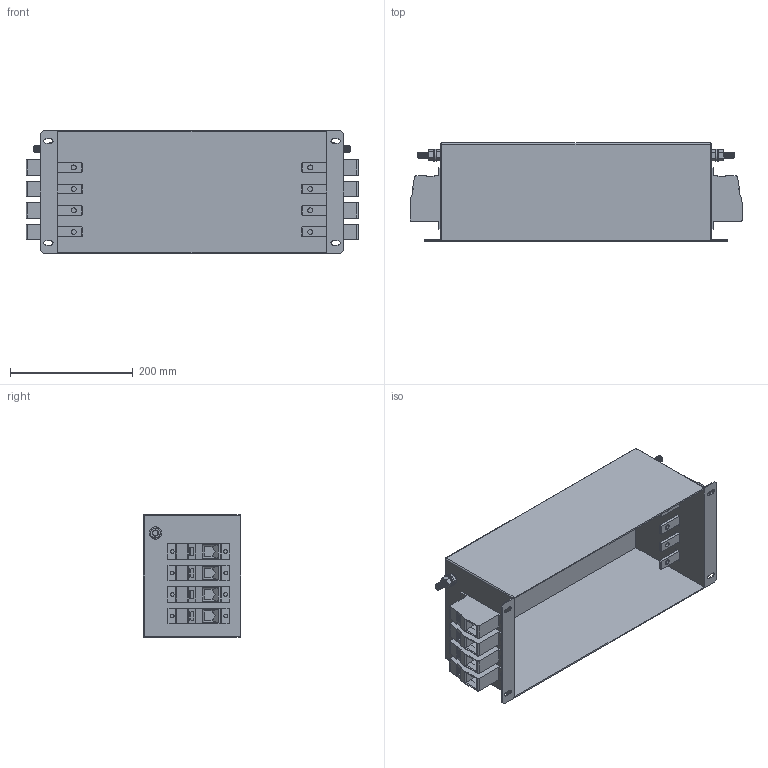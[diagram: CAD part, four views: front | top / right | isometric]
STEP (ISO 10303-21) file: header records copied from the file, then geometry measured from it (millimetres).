
FILE_DESCRIPTION (( 'STEP AP203' ), '1' );
FILE_NAME ('H BOX 4 PHASE DLC.STEP', '2018-07-11T14:29:46', ( '' ), ( '' ), 'SwSTEP 2.0', 'SolidWorks 2017', '' );
FILE_SCHEMA (( 'CONFIG_CONTROL_DESIGN' ));
Length unit declared in the file: millimetre
Products named in the file (7): hex nut style 1_am_B18.2.4.1M - Hex nut, Style 1,  M10 x 1.5, with 16mm WAF --D-N; H BOX 4 PHASE DLC; flat washer narrow_am_B18.22M - Plain washer, 10 mm, narrow; HDFK-95; hex screw_am_B18.6.7M - M10 x 1.5 x 30 Indented HHMS --30S; M10x30 Earth post
Assembly tree (15 placements, depth 3):
  H BOX 4 PHASE DLC
    H BOX 4 PHASE DLC
    M10x30 Earth post  x2
      flat washer narrow_am_B18.22M - Plain washer, 10 mm, narrow
      hex nut style 1_am_B18.2.4.1M - Hex nut, Style 1,  M10 x 1.5, with 16mm WAF --D-N
      hex screw_am_B18.6.7M - M10 x 1.5 x 30 Indented HHMS --30S
    HDFK-95  x8
Bounding box: 541 x 159.5 x 200 mm (x, y, z)
Volume: 1239395.8 mm3; surface area: 767210.1 mm2
Topology: 17 solids, 17 shells, 1083 faces, 2768 edges, 1776 vertices
Faces by surface type: plane 647, cylinder 232, cone 200, sphere 4
Entity records: 11373 total; most frequent: CARTESIAN_POINT 1963, DIRECTION 1834, ORIENTED_EDGE 1720, EDGE_CURVE 860, AXIS2_PLACEMENT_3D 657, VERTEX_POINT 546, LINE 520, VECTOR 520
